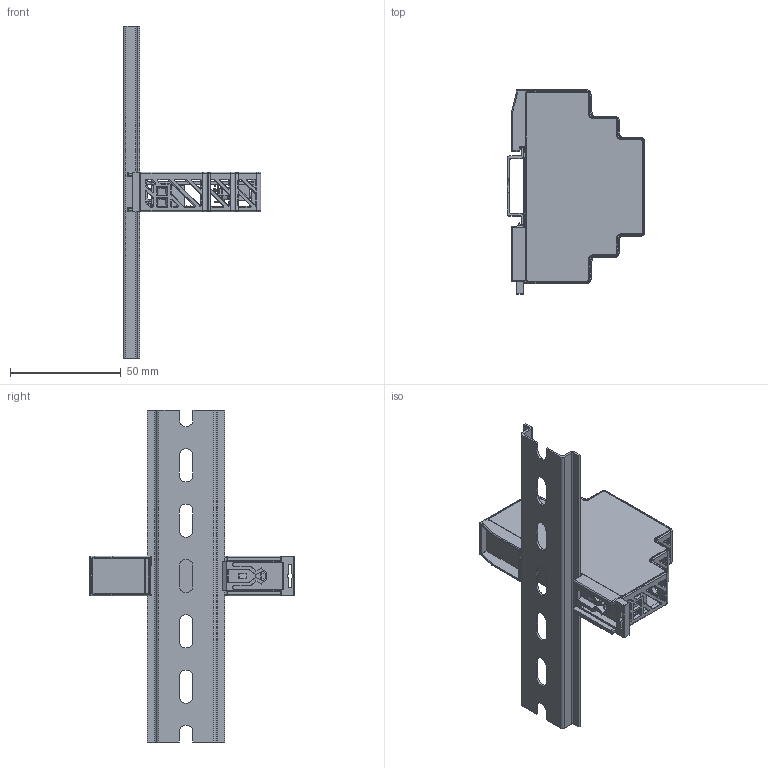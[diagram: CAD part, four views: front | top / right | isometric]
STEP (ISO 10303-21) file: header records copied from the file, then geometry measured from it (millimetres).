
FILE_DESCRIPTION((''),'2;1');
FILE_NAME('DRC-XXV015W1RZ_3D_ASSEMBLY_ASM_ASM','2024-11-26T10:07:18',('LEO.JY.WU'),(''),'CREO PARAMETRIC BY PTC INC, 2023294','CREO PARAMETRIC BY PTC INC, 2023294','');
FILE_SCHEMA(('AUTOMOTIVE_DESIGN { 1 0 10303 214 1 1 1 1 }'));
Products named in the file (25): 15W_CHASSIS_2; 15W_COVER_1; 15W_CLIP_1; RAIL_1; BOARD-549_1_1; BOARD-4309_1_2; 1_1_2_3_4_1; 2_1_2_3_4_1; 3_1_2_3_4_1; MB310-500M02G__20220621_ASM_1_3_ASM; CN-307013457W_1_2_3_ASM_1_ASM; CN201_1_2_3_ASM_1_ASM; CN1_1_2_3_ASM_1_ASM; IPDC-2016R0C4_1_ASM_1_ASM; IPDC-2016_1_2_ASM_1_ASM; 0600904104_1_2_3_1; VR200_1_2_ASM_1_ASM; OPEN_CASCADE_STEP_TRANSL-1031_1; OPEN_CASCADE_STEP_TRANSL-1038_1; 2300321605_1_2_ASM_1_ASM; LED101_1_2_ASM_1_ASM; PCB_1_2_3_ASM_1_ASM; ASM0001_ASM_1_ASM; 15W-CASE-ASM_ASM_5_ASM; DRC-XXV015W1RZ_3D_ASSEMBLY_ASM_ASM
Assembly tree (25 placements, depth 10):
  DRC-XXV015W1RZ_3D_ASSEMBLY_ASM_ASM
    15W-CASE-ASM_ASM_5_ASM
      15W_CHASSIS_2
      15W_COVER_1
      15W_CLIP_1
      RAIL_1
      ASM0001_ASM_1_ASM
        PCB_1_2_3_ASM_1_ASM
          BOARD-549_1_1
          IPDC-2016_1_2_ASM_1_ASM
            IPDC-2016R0C4_1_ASM_1_ASM
              BOARD-4309_1_2
              CN201_1_2_3_ASM_1_ASM
                CN-307013457W_1_2_3_ASM_1_ASM
                  MB310-500M02G__20220621_ASM_1_3_ASM
              CN1_1_2_3_ASM_1_ASM
                CN-307013457W_1_2_3_ASM_1_ASM
                  MB310-500M02G__20220621_ASM_1_3_ASM
          VR200_1_2_ASM_1_ASM
            0600904104_1_2_3_1
          LED101_1_2_ASM_1_ASM
            2300321605_1_2_ASM_1_ASM
              OPEN_CASCADE_STEP_TRANSL-1031_1
              OPEN_CASCADE_STEP_TRANSL-1038_1
Bounding box: 62.2 x 92.27 x 150 mm (x, y, z)
Volume: 34757.7 mm3; surface area: 53128.9 mm2
Topology: 14 solids, 14 shells, 2329 faces, 6112 edges, 3771 vertices
Faces by surface type: plane 987, cylinder 739, torus 274, cone 171, bspline 90, sphere 60, revolution 4, extrusion 4
Entity records: 88464 total; most frequent: CARTESIAN_POINT 17784, ORIENTED_EDGE 11192, DIRECTION 10993, EDGE_CURVE 5596, PRESENTATION_STYLE_ASSIGNMENT 5207, STYLED_ITEM 5189, CURVE_STYLE 4984, AXIS2_PLACEMENT_3D 3835
